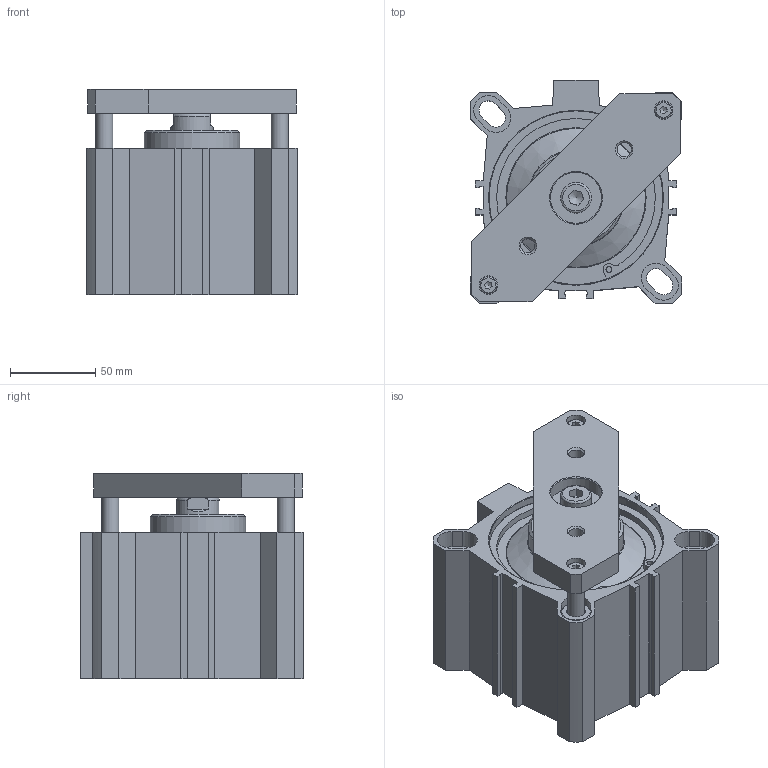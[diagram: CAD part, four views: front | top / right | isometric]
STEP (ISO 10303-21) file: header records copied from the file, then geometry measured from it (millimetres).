
FILE_DESCRIPTION(/* description */ ('Unknown'),/* implementation_level */ '2;1');
FILE_NAME(/* name */ 'FINT 100_30',/* time_stamp */ '2026-05-12T12:27:13+02:00',/* author */ ('Unknown'),/* organization */ ('Unknown'),/* preprocessor_version */ 'ST-DEVELOPER v18.102',/* originating_system */ 'Solid Edge',/* authorisation */ 'Unknown');
FILE_SCHEMA (('AUTOMOTIVE_DESIGN {1 0 10303 214 3 1 1}'));
Length unit declared in the file: millimetre
Products named in the file (7): FINT 100_30; Kolbenstange; Profilrohr; Kit_1; Kit_2; Platte; Führungsstange
Assembly tree (7 placements, depth 2):
  FINT 100_30
    Kolbenstange
    Profilrohr
    Kit_1
    Kit_2
    Platte
    Führungsstange  x2
Bounding box: 124 x 131 x 120.5 mm (x, y, z)
Volume: 881735.2 mm3; surface area: 221957.2 mm2
Topology: 9 solids, 9 shells, 361 faces, 878 edges, 565 vertices
Faces by surface type: plane 178, cylinder 113, cone 54, torus 16
Full cylindrical faces by diameter (mm): 3.5 x4, 4.917 x2, 5.25 x2, 6 x2, 7 x2, 8.376 x2, 10 x6, 10.106 x1, 11 x2, 11.445 x4, 17.8 x2, 18 x1, 25 x1, 25.6 x1, 26.9 x1, 28 x1, 29.8 x1, 30 x2, 56 x1, 80 x1, 100 x2, 101.7 x4, 102.2 x2, 106.2 x2
Entity records: 12156 total; most frequent: CARTESIAN_POINT 1822, DIRECTION 1710, ORIENTED_EDGE 1454, EDGE_CURVE 727, AXIS2_PLACEMENT_3D 652, VERTEX_POINT 536, FACE_BOUND 523, EDGE_LOOP 518
